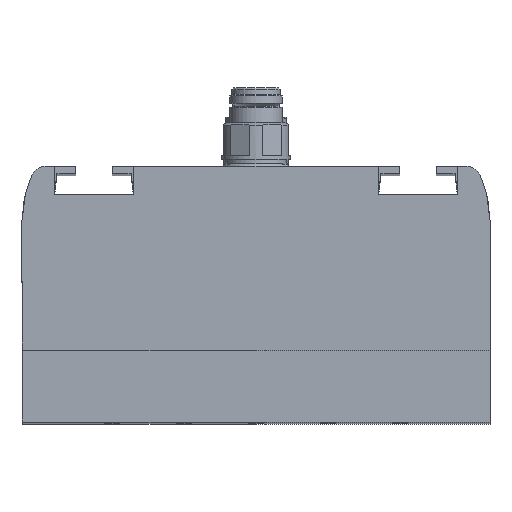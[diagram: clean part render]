
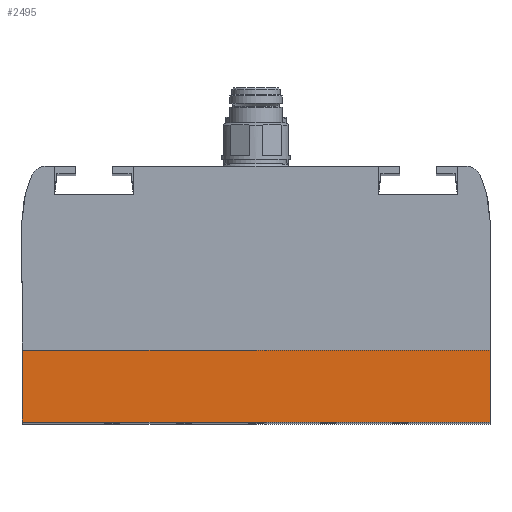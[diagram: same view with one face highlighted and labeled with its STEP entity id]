
A CAD part, top view. The second image highlights one B-rep face of the part: STEP entity #2495.
In plain terms, the highlighted planar face has unit normal (0, 0, 1).
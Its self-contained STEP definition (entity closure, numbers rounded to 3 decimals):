
#282 = DIRECTION ( 'NONE',  ( 0., 0., -1. ) ) ;
#861 = LINE ( 'NONE', #7879, #2566 ) ;
#1266 = CARTESIAN_POINT ( 'NONE',  ( 65., 0., 165. ) ) ;
#1441 = CARTESIAN_POINT ( 'NONE',  ( -65., -20., 165. ) ) ;
#2324 = CARTESIAN_POINT ( 'NONE',  ( -65., -20., 165. ) ) ;
#2495 = ADVANCED_FACE ( 'NONE', ( #4918 ), #11052, .F. ) ;
#2566 = VECTOR ( 'NONE', #15199, 1000. ) ;
#3681 = VERTEX_POINT ( 'NONE', #14696 ) ;
#3873 = ORIENTED_EDGE ( 'NONE', *, *, #9267, .T. ) ;
#4684 = EDGE_CURVE ( 'NONE', #6084, #10074, #7851, .T. ) ;
#4918 = FACE_OUTER_BOUND ( 'NONE', #10198, .T. ) ;
#5714 = CARTESIAN_POINT ( 'NONE',  ( -65., -20., 165. ) ) ;
#6000 = CARTESIAN_POINT ( 'NONE',  ( -65., 0., 165. ) ) ;
#6084 = VERTEX_POINT ( 'NONE', #2324 ) ;
#6245 = EDGE_CURVE ( 'NONE', #3681, #6084, #9404, .T. ) ;
#6512 = AXIS2_PLACEMENT_3D ( 'NONE', #1441, #282, #9932 ) ;
#7086 = CARTESIAN_POINT ( 'NONE',  ( -65., -20., 165. ) ) ;
#7614 = VECTOR ( 'NONE', #9564, 1000. ) ;
#7851 = LINE ( 'NONE', #5714, #11502 ) ;
#7879 = CARTESIAN_POINT ( 'NONE',  ( 65., -20., 165. ) ) ;
#7927 = ORIENTED_EDGE ( 'NONE', *, *, #6245, .F. ) ;
#7998 = VECTOR ( 'NONE', #10654, 1000. ) ;
#8168 = DIRECTION ( 'NONE',  ( 0., 1., 0. ) ) ;
#8627 = CARTESIAN_POINT ( 'NONE',  ( -65., 0., 165. ) ) ;
#9267 = EDGE_CURVE ( 'NONE', #13332, #10074, #13414, .T. ) ;
#9404 = LINE ( 'NONE', #7086, #7998 ) ;
#9564 = DIRECTION ( 'NONE',  ( -1., 0., 0. ) ) ;
#9932 = DIRECTION ( 'NONE',  ( -1., 0., 0. ) ) ;
#10074 = VERTEX_POINT ( 'NONE', #8627 ) ;
#10198 = EDGE_LOOP ( 'NONE', ( #3873, #12326, #7927, #12729 ) ) ;
#10654 = DIRECTION ( 'NONE',  ( -1., 0., 0. ) ) ;
#11052 = PLANE ( 'NONE',  #6512 ) ;
#11502 = VECTOR ( 'NONE', #8168, 1000. ) ;
#12326 = ORIENTED_EDGE ( 'NONE', *, *, #4684, .F. ) ;
#12689 = EDGE_CURVE ( 'NONE', #3681, #13332, #861, .T. ) ;
#12729 = ORIENTED_EDGE ( 'NONE', *, *, #12689, .T. ) ;
#13332 = VERTEX_POINT ( 'NONE', #1266 ) ;
#13414 = LINE ( 'NONE', #6000, #7614 ) ;
#14696 = CARTESIAN_POINT ( 'NONE',  ( 65., -20., 165. ) ) ;
#15199 = DIRECTION ( 'NONE',  ( 0., 1., 0. ) ) ;
